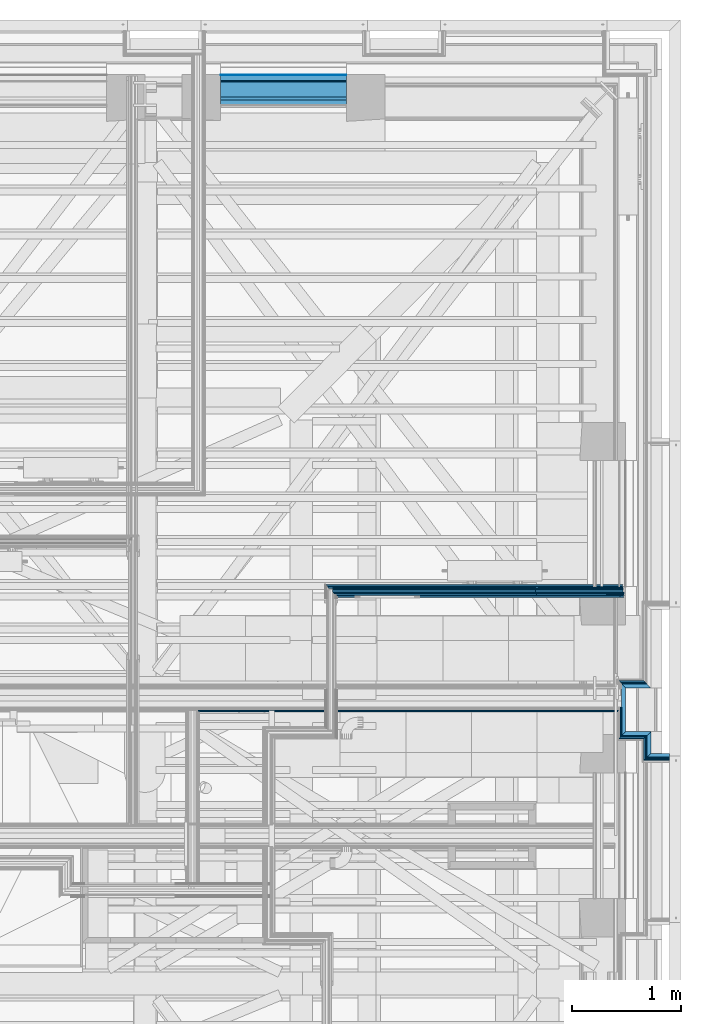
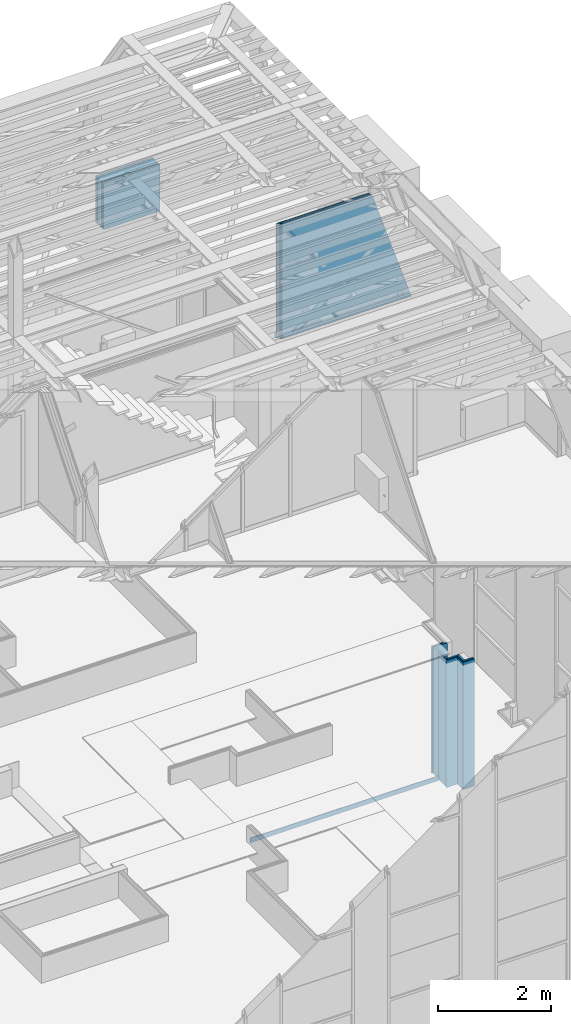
# One storey, part 60 of 183: 28 building element parts, 8 elements without a shape of their own.
"""IFC2X3 building model written with IfcOpenShell, lengths in metres."""

import ifcopenshell
import ifcopenshell.guid

model = None  # the IFC model being written
_history = None  # IfcOwnerHistory: only IFC2X3 demands one
_inside = {}  # id of a spatial element -> (the spatial element, [elements in it])
_under = {}  # id of a project, library or spatial element -> (it, [spatial elements below it])
_declared = {}  # id of a project -> (the project, [libraries it declares])
_typed = {}  # id of a type object -> (the type object, [elements of that type])
_made_of = {}  # id of a material, layer set ... -> (it, [elements and type objects made of it])


def new_model(schema):
    """Start an empty IFC model of exactly this schema.

    Asked for "IFC4X3", IfcOpenShell would pick the latest addendum, in which some entities
    have other attributes; the version numbers below select the first issue.
    IFC2X3 requires an IfcOwnerHistory on every rooted entity: one is made here for all.
    """
    global model, _history
    if schema == "IFC4X3":
        model = ifcopenshell.file(schema_version=(4, 3, 0, 0))
    else:
        model = ifcopenshell.file(schema=schema)
    _inside.clear()
    _under.clear()
    _declared.clear()
    _typed.clear()
    _made_of.clear()
    _history = None
    if model.schema == "IFC2X3":
        org = make("IfcOrganization", Name="unknown")
        user = make(
            "IfcPersonAndOrganization",
            ThePerson=make("IfcPerson", FamilyName="unknown"),
            TheOrganization=org,
        )
        app = make(
            "IfcApplication",
            ApplicationDeveloper=org,
            Version="unknown",
            ApplicationFullName="unknown",
            ApplicationIdentifier="unknown",
        )
        _history = make(
            "IfcOwnerHistory",
            OwningUser=user,
            OwningApplication=app,
            ChangeAction="ADDED",
            CreationDate=0,
        )
    return model


def make(cls, **values):
    """One entity of the class cls with the attributes given. An attribute that is None is left unset."""
    return model.create_entity(
        cls, **{name: value for name, value in values.items() if value is not None}
    )


def entity(cls, *values):
    """Any entity or typed value of the class cls, its attributes in the order of the schema. None: left unset."""
    e = model.create_entity(cls)
    for i, value in enumerate(values):
        if value is not None:
            e[i] = value
    return e


def rooted(cls, **values):
    """An entity with a GlobalId (a new one), such as an element, a storey or a relation."""
    return make(cls, GlobalId=ifcopenshell.guid.new(), OwnerHistory=_history, **values)


def si_unit(unit_type, name, prefix=None):
    """IfcSIUnit, for example si_unit("LENGTHUNIT", "METRE", prefix="MILLI")."""
    return make("IfcSIUnit", UnitType=unit_type, Prefix=prefix, Name=name)


def converted_unit(unit_type, name, factor, base, dimensions=None, offset=None):
    """IfcConversionBasedUnit, such as the inch: factor (a typed value) times the base unit."""
    return make(
        "IfcConversionBasedUnit"
        if offset is None
        else "IfcConversionBasedUnitWithOffset",
        ConversionOffset=offset,
        Dimensions=None
        if dimensions is None
        else entity("IfcDimensionalExponents", *dimensions),
        UnitType=unit_type,
        Name=name,
        ConversionFactor=make(
            "IfcMeasureWithUnit", ValueComponent=factor, UnitComponent=base
        ),
    )


def derived_unit(unit_type, elements):
    """IfcDerivedUnit: a product of units, each with its exponent."""
    return make(
        "IfcDerivedUnit",
        Elements=[
            make("IfcDerivedUnitElement", Unit=unit, Exponent=power)
            for unit, power in elements
        ],
        UnitType=unit_type,
    )


def money_unit(currency):
    """IfcMonetaryUnit."""
    return make("IfcMonetaryUnit", Currency=currency)


def assignment(units):
    """IfcUnitAssignment: the units of a project."""
    return None if units is None else make("IfcUnitAssignment", Units=units)


def point(xyz):
    """IfcCartesianPoint."""
    return None if xyz is None else make("IfcCartesianPoint", Coordinates=xyz)


def direction(xyz):
    """IfcDirection."""
    return None if xyz is None else make("IfcDirection", DirectionRatios=xyz)


def frame(location, z_axis=None, x_axis=None):
    """IfcAxis2Placement3D, a coordinate frame: its origin and axes. An axis left out is left unset."""
    return make(
        "IfcAxis2Placement3D",
        Location=point(location),
        Axis=direction(z_axis),
        RefDirection=direction(x_axis),
    )


def frame_2d(location, x_axis=None):
    """IfcAxis2Placement2D, a coordinate frame in the plane: its origin and x axis."""
    return make(
        "IfcAxis2Placement2D", Location=point(location), RefDirection=direction(x_axis)
    )


def origin_with_axes():
    """The frame at (0, 0, 0) with the z axis (0, 0, 1) and the x axis (1, 0, 0) written out."""
    return frame((0.0, 0.0, 0.0), z_axis=(0.0, 0.0, 1.0), x_axis=(1.0, 0.0, 0.0))


def place(relative_to, where):
    """IfcLocalPlacement: puts the frame where relative to a parent placement (None: the world)."""
    return make(
        "IfcLocalPlacement", PlacementRelTo=relative_to, RelativePlacement=where
    )


def context(
    kind, dimensions, precision=None, world=None, true_north=None, identifier=None
):
    """IfcGeometricRepresentationContext, for example the 3D "Model" context."""
    return make(
        "IfcGeometricRepresentationContext",
        ContextIdentifier=identifier,
        ContextType=kind,
        CoordinateSpaceDimension=dimensions,
        Precision=precision,
        WorldCoordinateSystem=world,
        TrueNorth=true_north,
    )


def subcontext(parent, identifier, kind, view, scale=None):
    """IfcGeometricRepresentationSubContext, for example "Body" below "Model"."""
    return make(
        "IfcGeometricRepresentationSubContext",
        ContextIdentifier=identifier,
        ContextType=kind,
        ParentContext=parent,
        TargetScale=scale,
        TargetView=view,
    )


def project(units=None, contexts=None):
    """IfcProject with its units and contexts."""
    return rooted(
        "IfcProject",
        Name="project",
        RepresentationContexts=contexts,
        UnitsInContext=assignment(units),
    )


def spatial(cls, under=None, at=None, **own):
    """A site, building, storey or space (cls), placed at a placement, below another one or the project."""
    s = rooted(cls, ObjectPlacement=at, **own)
    if under is not None:
        _under.setdefault(under.id(), (under, []))[1].append(s)
    return s


def polyline(points):
    """IfcPolyline through the points."""
    return make("IfcPolyline", Points=[point(p) for p in points])


def profile(cls, at=None, kind="AREA", **sizes):
    """A parametric profile (cls). Its sizes go by their IFC names, for example OverallWidth=200.0."""
    return make(cls, ProfileType=kind, Position=at, **sizes)


def rectangle(**sizes):
    """IfcRectangleProfileDef."""
    return profile("IfcRectangleProfileDef", **sizes)


def outline(outer, holes=None, kind="AREA"):
    """IfcArbitraryClosedProfileDef: a profile drawn as a closed curve; with holes, ...WithVoids."""
    if holes is None:
        return make("IfcArbitraryClosedProfileDef", ProfileType=kind, OuterCurve=outer)
    return make(
        "IfcArbitraryProfileDefWithVoids",
        ProfileType=kind,
        OuterCurve=outer,
        InnerCurves=holes,
    )


def extrude(swept, where, along, depth):
    """IfcExtrudedAreaSolid: the profile swept, set in the frame where, extruded along a direction by depth."""
    return make(
        "IfcExtrudedAreaSolid",
        SweptArea=swept,
        Position=where,
        ExtrudedDirection=direction(along),
        Depth=depth,
    )


def clip(a, b, op="DIFFERENCE"):
    """IfcBooleanClippingResult: the solid a cut by the half space b."""
    return make(
        "IfcBooleanClippingResult", Operator=op, FirstOperand=a, SecondOperand=b
    )


def halfspace(plane, agree):
    """IfcHalfSpaceSolid: all space on one side of the plane z = 0 of the frame plane."""
    return make(
        "IfcHalfSpaceSolid",
        BaseSurface=make("IfcPlane", Position=plane),
        AgreementFlag=agree,
    )


def shape(context_of_items, identifier, shape_type, items):
    """IfcShapeRepresentation: the items that make up one representation, for example the "Body"."""
    return make(
        "IfcShapeRepresentation",
        ContextOfItems=context_of_items,
        RepresentationIdentifier=identifier,
        RepresentationType=shape_type,
        Items=items,
    )


def material(Name=None, Category=None):
    """IfcMaterial."""
    return make("IfcMaterial", Name=Name, Category=Category)


def made_of(thing, what):
    """Note that an element or type object is made of a material, layer set ...; save() writes the relation."""
    if what is not None:
        _made_of.setdefault(what.id(), (what, []))[1].append(thing)
    return thing


def type_object(cls, material=None, **own):
    """A type object (cls), such as IfcWallType, which elements share."""
    return made_of(rooted(cls, **own), material)


def element(
    cls,
    number,
    at=None,
    inside=None,
    cuts=None,
    type_object=None,
    material=None,
    context=None,
    identifier="Body",
    shape_type=None,
    held_by="IfcProductDefinitionShape",
    body=None,
    shapes=None,
    **own,
):
    """One element of the class cls, such as IfcWall. Its Tag is "e" and its number.

    at: its placement. inside: the storey or other place that contains it. cuts: it is an
    opening in that element (IfcRelVoidsElement). A single representation is given by context,
    identifier, shape_type and body (its items); several are given by shapes. held_by: the class
    of the entity that holds the representations. save() writes the other relations.
    """
    e = rooted(cls, Tag="e%d" % number, ObjectPlacement=at, **own)
    if body is not None:
        shapes = [shape(context, identifier, shape_type, body)]
    if shapes is not None:
        e.Representation = make(held_by, Representations=shapes)
    if inside is not None:
        _inside.setdefault(inside.id(), (inside, []))[1].append(e)
    if cuts is not None:
        rooted(
            "IfcRelVoidsElement", RelatingBuildingElement=cuts, RelatedOpeningElement=e
        )
    if type_object is not None:
        _typed.setdefault(type_object.id(), (type_object, []))[1].append(e)
    return made_of(e, material)


def aggregate(whole, parts):
    """IfcRelAggregates: a whole, such as a stair, and the parts it consists of."""
    return rooted("IfcRelAggregates", RelatingObject=whole, RelatedObjects=parts)


def save(model, path):
    """Write the relations noted so far, then the file.

    IfcRelAggregates (storeys below a building ...), IfcRelContainedInSpatialStructure (elements
    in a storey), IfcRelDefinesByType, IfcRelAssociatesMaterial and IfcRelDeclares: one each for
    every whole, place, type object, material and project.
    """
    for whole, parts in _under.values():
        aggregate(whole, parts)
    for where, things in _inside.values():
        rooted(
            "IfcRelContainedInSpatialStructure",
            RelatedElements=things,
            RelatingStructure=where,
        )
    for kind, things in _typed.values():
        rooted("IfcRelDefinesByType", RelatedObjects=things, RelatingType=kind)
    for what, things in _made_of.values():
        rooted("IfcRelAssociatesMaterial", RelatedObjects=things, RelatingMaterial=what)
    for by, libraries in _declared.values():
        rooted("IfcRelDeclares", RelatingContext=by, RelatedDefinitions=libraries)
    model.write(path)


model = new_model("IFC2X3")

# Units and contexts
model_context = context("Model", 3, precision=1e-05, world=origin_with_axes(), true_north=direction((0.0, 1.0)))
body_context = subcontext(model_context, "Body", "Model", "MODEL_VIEW", scale=1.0)
ifc_project = project(units=[si_unit("LENGTHUNIT", "METRE"), si_unit("AREAUNIT", "SQUARE_METRE"), si_unit("VOLUMEUNIT", "CUBIC_METRE"), si_unit("ABSORBEDDOSEUNIT", "GRAY"), si_unit("AMOUNTOFSUBSTANCEUNIT", "MOLE"), si_unit("DOSEEQUIVALENTUNIT", "SIEVERT"), si_unit("ELECTRICCAPACITANCEUNIT", "FARAD"), si_unit("ELECTRICCHARGEUNIT", "COULOMB"), si_unit("ELECTRICCONDUCTANCEUNIT", "SIEMENS"), si_unit("ELECTRICCURRENTUNIT", "AMPERE"), si_unit("ELECTRICRESISTANCEUNIT", "OHM"), si_unit("ELECTRICVOLTAGEUNIT", "VOLT"), si_unit("ENERGYUNIT", "JOULE"), si_unit("FORCEUNIT", "NEWTON"), si_unit("FREQUENCYUNIT", "HERTZ"), si_unit("ILLUMINANCEUNIT", "LUX"), si_unit("INDUCTANCEUNIT", "HENRY"), si_unit("LUMINOUSFLUXUNIT", "LUMEN"), si_unit("LUMINOUSINTENSITYUNIT", "CANDELA"), si_unit("MAGNETICFLUXDENSITYUNIT", "TESLA"), si_unit("MAGNETICFLUXUNIT", "WEBER"), si_unit("MASSUNIT", "GRAM"), converted_unit("PLANEANGLEUNIT", "degree", entity("IfcReal", 0.0174532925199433), si_unit("PLANEANGLEUNIT", "RADIAN"), dimensions=[0, 0, 0, 0, 0, 0, 0]), si_unit("POWERUNIT", "WATT"), si_unit("PRESSUREUNIT", "PASCAL"), si_unit("RADIOACTIVITYUNIT", "BECQUEREL"), si_unit("SOLIDANGLEUNIT", "STERADIAN"), si_unit("THERMODYNAMICTEMPERATUREUNIT", "KELVIN"), si_unit("TIMEUNIT", "SECOND"), derived_unit("ACCELERATIONUNIT", [(si_unit("LENGTHUNIT", "METRE"), 1), (si_unit("TIMEUNIT", "SECOND"), -2)]), derived_unit("ANGULARVELOCITYUNIT", [(converted_unit("PLANEANGLEUNIT", "degree", entity("IfcReal", 0.0174532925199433), si_unit("PLANEANGLEUNIT", "RADIAN"), dimensions=[0, 0, 0, 0, 0, 0, 0]), 1), (si_unit("TIMEUNIT", "SECOND"), -1)]), derived_unit("CURVATUREUNIT", [(converted_unit("PLANEANGLEUNIT", "degree", entity("IfcReal", 0.0174532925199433), si_unit("PLANEANGLEUNIT", "RADIAN"), dimensions=[0, 0, 0, 0, 0, 0, 0]), 1), (si_unit("LENGTHUNIT", "METRE"), -1)]), derived_unit("DYNAMICVISCOSITYUNIT", [(si_unit("PRESSUREUNIT", "PASCAL"), 1), (si_unit("TIMEUNIT", "SECOND"), 1)]), derived_unit("HEATFLUXDENSITYUNIT", [(si_unit("POWERUNIT", "WATT"), 1), (si_unit("LENGTHUNIT", "METRE"), -2)]), derived_unit("HEATINGVALUEUNIT", [(si_unit("ENERGYUNIT", "JOULE"), 1), (si_unit("MASSUNIT", "GRAM"), -1)]), derived_unit("INTEGERCOUNTRATEUNIT", [(si_unit("TIMEUNIT", "SECOND"), -1)]), derived_unit("IONCONCENTRATIONUNIT", [(si_unit("MASSUNIT", "GRAM"), 1), (si_unit("VOLUMEUNIT", "CUBIC_METRE"), -1)]), derived_unit("ISOTHERMALMOISTURECAPACITYUNIT", [(si_unit("VOLUMEUNIT", "CUBIC_METRE"), 1), (si_unit("MASSUNIT", "GRAM"), -1)]), derived_unit("KINEMATICVISCOSITYUNIT", [(si_unit("AREAUNIT", "SQUARE_METRE"), 1), (si_unit("TIMEUNIT", "SECOND"), -1)]), derived_unit("LINEARFORCEUNIT", [(si_unit("FORCEUNIT", "NEWTON"), 1), (si_unit("LENGTHUNIT", "METRE"), -1)]), derived_unit("LINEARMOMENTUNIT", [(si_unit("FORCEUNIT", "NEWTON"), 1), (si_unit("LENGTHUNIT", "METRE"), -1)]), derived_unit("LINEARSTIFFNESSUNIT", [(si_unit("FORCEUNIT", "NEWTON"), 1), (si_unit("LENGTHUNIT", "METRE"), -1)]), derived_unit("LINEARVELOCITYUNIT", [(si_unit("LENGTHUNIT", "METRE"), 1), (si_unit("TIMEUNIT", "SECOND"), -1)]), derived_unit("LUMINOUSINTENSITYDISTRIBUTIONUNIT", [(si_unit("LUMINOUSINTENSITYUNIT", "CANDELA"), 1), (si_unit("LUMINOUSFLUXUNIT", "LUMEN"), -1)]), derived_unit("MASSDENSITYUNIT", [(si_unit("MASSUNIT", "GRAM"), 1), (si_unit("VOLUMEUNIT", "CUBIC_METRE"), -1)]), derived_unit("MASSFLOWRATEUNIT", [(si_unit("MASSUNIT", "GRAM"), 1), (si_unit("TIMEUNIT", "SECOND"), -1)]), derived_unit("MASSPERLENGTHUNIT", [(si_unit("MASSUNIT", "GRAM"), 1), (si_unit("LENGTHUNIT", "METRE"), -1)]), derived_unit("MODULUSOFELASTICITYUNIT", [(si_unit("FORCEUNIT", "NEWTON"), 1), (si_unit("AREAUNIT", "SQUARE_METRE"), -1)]), derived_unit("MODULUSOFLINEARSUBGRADEREACTIONUNIT", [(si_unit("FORCEUNIT", "NEWTON"), 1), (si_unit("LENGTHUNIT", "METRE"), -2)]), derived_unit("MODULUSOFROTATIONALSUBGRADEREACTIONUNIT", [(si_unit("FORCEUNIT", "NEWTON"), 1), (si_unit("LENGTHUNIT", "METRE"), 1)]), derived_unit("MODULUSOFSUBGRADEREACTIONUNIT", [(si_unit("FORCEUNIT", "NEWTON"), 1), (si_unit("VOLUMEUNIT", "CUBIC_METRE"), -1)]), derived_unit("MOISTUREDIFFUSIVITYUNIT", [(si_unit("VOLUMEUNIT", "CUBIC_METRE"), 1), (si_unit("TIMEUNIT", "SECOND"), -1)]), derived_unit("MOLECULARWEIGHTUNIT", [(si_unit("MASSUNIT", "GRAM"), 1), (si_unit("AMOUNTOFSUBSTANCEUNIT", "MOLE"), -1)]), derived_unit("PLANARFORCEUNIT", [(si_unit("FORCEUNIT", "NEWTON"), 1), (si_unit("LENGTHUNIT", "METRE"), -2)]), derived_unit("ROTATIONALFREQUENCYUNIT", [(si_unit("TIMEUNIT", "SECOND"), -1)]), derived_unit("ROTATIONALMASSUNIT", [(si_unit("MASSUNIT", "GRAM"), 1), (si_unit("LENGTHUNIT", "METRE"), 2)]), derived_unit("ROTATIONALSTIFFNESSUNIT", [(si_unit("FORCEUNIT", "NEWTON"), 1), (si_unit("LENGTHUNIT", "METRE"), 1), (converted_unit("PLANEANGLEUNIT", "degree", entity("IfcReal", 0.0174532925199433), si_unit("PLANEANGLEUNIT", "RADIAN"), dimensions=[0, 0, 0, 0, 0, 0, 0]), -1)]), derived_unit("SECTIONAREAINTEGRALUNIT", [(si_unit("LENGTHUNIT", "METRE"), 5)]), derived_unit("SECTIONMODULUSUNIT", [(si_unit("LENGTHUNIT", "METRE"), 3)]), derived_unit("SHEARMODULUSUNIT", [(si_unit("FORCEUNIT", "NEWTON"), 1), (si_unit("AREAUNIT", "SQUARE_METRE"), -1)]), derived_unit("SOUNDPOWERUNIT", [(si_unit("ENERGYUNIT", "JOULE"), 1), (si_unit("TIMEUNIT", "SECOND"), -1)]), derived_unit("SPECIFICHEATCAPACITYUNIT", [(si_unit("FORCEUNIT", "NEWTON"), 1), (si_unit("MASSUNIT", "GRAM"), -1), (si_unit("THERMODYNAMICTEMPERATUREUNIT", "KELVIN"), -1)]), derived_unit("TEMPERATUREGRADIENTUNIT", [(si_unit("THERMODYNAMICTEMPERATUREUNIT", "KELVIN"), 1), (si_unit("LENGTHUNIT", "METRE"), -1)]), derived_unit("THERMALADMITTANCEUNIT", [(si_unit("POWERUNIT", "WATT"), 1), (si_unit("AREAUNIT", "SQUARE_METRE"), -1), (si_unit("THERMODYNAMICTEMPERATUREUNIT", "KELVIN"), -1)]), derived_unit("THERMALCONDUCTANCEUNIT", [(si_unit("POWERUNIT", "WATT"), 1), (si_unit("LENGTHUNIT", "METRE"), -1), (si_unit("THERMODYNAMICTEMPERATUREUNIT", "KELVIN"), -1)]), derived_unit("THERMALEXPANSIONCOEFFICIENTUNIT", [(si_unit("THERMODYNAMICTEMPERATUREUNIT", "KELVIN"), -1)]), derived_unit("THERMALRESISTANCEUNIT", [(si_unit("AREAUNIT", "SQUARE_METRE"), 1), (si_unit("POWERUNIT", "WATT"), -1)]), derived_unit("THERMALTRANSMITTANCEUNIT", [(si_unit("POWERUNIT", "WATT"), 1), (si_unit("AREAUNIT", "SQUARE_METRE"), -1), (si_unit("THERMODYNAMICTEMPERATUREUNIT", "KELVIN"), -1)]), derived_unit("TORQUEUNIT", [(si_unit("FORCEUNIT", "NEWTON"), 1), (si_unit("LENGTHUNIT", "METRE"), 1)]), derived_unit("VAPORPERMEABILITYUNIT", [(si_unit("MASSUNIT", "GRAM"), 1), (si_unit("TIMEUNIT", "SECOND"), -1)]), derived_unit("VOLUMETRICFLOWRATEUNIT", [(si_unit("VOLUMEUNIT", "CUBIC_METRE"), 1), (si_unit("TIMEUNIT", "SECOND"), -1)]), derived_unit("WARPINGCONSTANTUNIT", [(si_unit("LENGTHUNIT", "METRE"), 6)]), derived_unit("WARPINGMOMENTUNIT", [(si_unit("FORCEUNIT", "NEWTON"), 1), (si_unit("LENGTHUNIT", "METRE"), 2)]), money_unit("GBP")], contexts=[model_context])

# Site, building, storey
site_placement = place(None, origin_with_axes())
site = spatial("IfcSite", under=ifc_project, at=site_placement, Name="Site", CompositionType="ELEMENT")
building_placement = place(site_placement, origin_with_axes())
building = spatial("IfcBuilding", under=site, at=building_placement, Name="Building01", CompositionType="ELEMENT")
storey_placement = place(building_placement, frame((0.0, 0.0, 5.15), z_axis=(0.0, 0.0, 1.0), x_axis=(1.0, 0.0, 0.0)))
storey = spatial("IfcBuildingStorey", under=building, at=storey_placement, Name="1F", CompositionType="ELEMENT", Elevation=5.15)

# Wall, building element part
wall_type_1 = type_object("IfcWallType", Name="SHE_A-Walls_Type01c_Partywall_225mm_twin_tall", PredefinedType="NOTDEFINED")
wall_1_placement = place(storey_placement, frame((26.444, 8.732, 0.0), z_axis=(0.0, 0.0, 1.0), x_axis=(-1.0, 0.0, 0.0)))
wall_1 = element("IfcWall", 1, at=wall_1_placement, inside=storey, type_object=wall_type_1, Name="1C", ObjectType="SHE_A-Walls_Type01c_Partywall_225mm_twin_tall")
ifc_material_1 = material(Name="A_BSUK_Walls_Timber")
building_element_part_1_placement = place(wall_1_placement, origin_with_axes())
building_element_part_1 = element("IfcBuildingElementPart", 2, at=building_element_part_1_placement, material=ifc_material_1, Name="11", context=body_context, shape_type="SweptSolid", body=[
    extrude(outline(polyline([(3.872339, 0.152), (0.042, 0.152), (0.027, 0.137), (3.872339, 0.137), (3.872339, 0.152)])), frame((0.0, 0.0, 0.015), z_axis=(0.0, 0.0, 1.0), x_axis=(1.0, 0.0, 0.0)), (0.0, 0.0, 1.0), 0.1),
])
aggregate(wall_1, [building_element_part_1])

# Wall, building element parts
wall_type_2 = type_object("IfcWallType", Name="SHE_A-Walls_Type06f_ExternalWallInsulation_48+15mm", PredefinedType="NOTDEFINED")
wall_2_placement = place(storey_placement, frame((26.88, 8.182326, 0.0), z_axis=(0.0, 0.0, 1.0), x_axis=(-1.0, 0.0, 0.0)))
wall_2 = element("IfcWall", 3, at=wall_2_placement, inside=storey, type_object=wall_type_2, Name="6F", ObjectType="SHE_A-Walls_Type06f_ExternalWallInsulation_48+15mm")
ifc_material_2 = material(Name="A_BSUK_Insulation")
placement_1 = place(wall_2_placement, origin_with_axes())
building_element_part_2 = element("IfcBuildingElementPart", 4, at=placement_1, material=ifc_material_2, Name="1", context=body_context, shape_type="SweptSolid", body=[
    extrude(outline(polyline([(0.206, 0.018), (0.0, 0.018), (0.0, -0.018), (0.17, -0.018), (0.206, 0.018)])), origin_with_axes(), (0.0, 0.0, 1.0), 2.74),
])
ifc_material_3 = material(Name="A_BSUK_WallInternal_Finishes_Plasterboard")
building_element_part_3 = element("IfcBuildingElementPart", 5, at=placement_1, material=ifc_material_3, Name="2", context=body_context, shape_type="SweptSolid", body=[
    extrude(outline(polyline([(0.218, 0.03), (0.0, 0.03), (0.0, 0.018), (0.206, 0.018), (0.218, 0.03)])), origin_with_axes(), (0.0, 0.0, 1.0), 2.74),
])
building_element_part_4 = element("IfcBuildingElementPart", 6, at=placement_1, material=ifc_material_3, Name="3", context=body_context, shape_type="SweptSolid", body=[
    extrude(outline(polyline([(0.233, 0.045), (0.0, 0.045), (0.0, 0.03), (0.218, 0.03), (0.233, 0.045)])), origin_with_axes(), (0.0, 0.0, 1.0), 2.74),
])
aggregate(wall_2, [building_element_part_2, building_element_part_3, building_element_part_4])

wall_3_placement = place(storey_placement, frame((26.692, 8.182326, 0.0), z_axis=(0.0, 0.0, 1.0), x_axis=(0.0, 1.0, 0.0)))
wall_3 = element("IfcWall", 7, at=wall_3_placement, inside=storey, type_object=wall_type_2, Name="6F", ObjectType="SHE_A-Walls_Type06f_ExternalWallInsulation_48+15mm")
placement_2 = place(wall_3_placement, origin_with_axes())
building_element_part_5 = element("IfcBuildingElementPart", 8, at=placement_2, material=ifc_material_2, Name="1", context=body_context, shape_type="SweptSolid", body=[
    extrude(outline(polyline([(0.181674, 0.018), (-0.018, 0.018), (0.018, -0.018), (0.217674, -0.018), (0.181674, 0.018)])), origin_with_axes(), (0.0, 0.0, 1.0), 2.74),
])
building_element_part_6 = element("IfcBuildingElementPart", 9, at=placement_2, material=ifc_material_3, Name="2", context=body_context, shape_type="SweptSolid", body=[
    extrude(outline(polyline([(0.169674, 0.03), (-0.03, 0.03), (-0.018, 0.018), (0.181674, 0.018), (0.169674, 0.03)])), origin_with_axes(), (0.0, 0.0, 1.0), 2.74),
])
building_element_part_7 = element("IfcBuildingElementPart", 10, at=placement_2, material=ifc_material_3, Name="3", context=body_context, shape_type="SweptSolid", body=[
    extrude(outline(polyline([(0.154674, 0.045), (-0.045, 0.045), (-0.03, 0.03), (0.169674, 0.03), (0.154674, 0.045)])), origin_with_axes(), (0.0, 0.0, 1.0), 2.74),
])
aggregate(wall_3, [building_element_part_5, building_element_part_6, building_element_part_7])

wall_4_placement = place(storey_placement, frame((26.692, 8.382, 0.0), z_axis=(0.0, 0.0, 1.0), x_axis=(-1.0, 0.0, 0.0)))
wall_4 = element("IfcWall", 11, at=wall_4_placement, inside=storey, type_object=wall_type_2, Name="6F", ObjectType="SHE_A-Walls_Type06f_ExternalWallInsulation_48+15mm")
placement_3 = place(wall_4_placement, origin_with_axes())
building_element_part_8 = element("IfcBuildingElementPart", 12, at=placement_3, material=ifc_material_2, Name="1", context=body_context, shape_type="SweptSolid", body=[
    extrude(outline(polyline([(0.248, 0.018), (0.018, 0.018), (-0.018, -0.018), (0.212, -0.018), (0.248, 0.018)])), origin_with_axes(), (0.0, 0.0, 1.0), 2.74),
])
building_element_part_9 = element("IfcBuildingElementPart", 13, at=placement_3, material=ifc_material_3, Name="2", context=body_context, shape_type="SweptSolid", body=[
    extrude(outline(polyline([(0.26, 0.03), (0.03, 0.03), (0.018, 0.018), (0.248, 0.018), (0.26, 0.03)])), origin_with_axes(), (0.0, 0.0, 1.0), 2.74),
])
building_element_part_10 = element("IfcBuildingElementPart", 14, at=placement_3, material=ifc_material_3, Name="3", context=body_context, shape_type="SweptSolid", body=[
    extrude(outline(polyline([(0.275, 0.045), (0.045, 0.045), (0.03, 0.03), (0.26, 0.03), (0.275, 0.045)])), origin_with_axes(), (0.0, 0.0, 1.0), 2.74),
])
aggregate(wall_4, [building_element_part_8, building_element_part_9, building_element_part_10])

wall_5_placement = place(storey_placement, frame((26.462, 8.818, 0.0), z_axis=(0.0, 0.0, 1.0), x_axis=(1.0, 0.0, 0.0)))
wall_5 = element("IfcWall", 15, at=wall_5_placement, inside=storey, type_object=wall_type_2, Name="6F", ObjectType="SHE_A-Walls_Type06f_ExternalWallInsulation_48+15mm")
placement_4 = place(wall_5_placement, origin_with_axes())
building_element_part_11 = element("IfcBuildingElementPart", 16, at=placement_4, material=ifc_material_2, Name="1", context=body_context, shape_type="SweptSolid", body=[
    extrude(outline(polyline([(0.212, 0.018), (-0.018, 0.018), (0.018, -0.018), (0.248, -0.018), (0.212, 0.018)])), origin_with_axes(), (0.0, 0.0, 1.0), 2.74),
])
building_element_part_12 = element("IfcBuildingElementPart", 17, at=placement_4, material=ifc_material_3, Name="2", context=body_context, shape_type="SweptSolid", body=[
    extrude(outline(polyline([(0.2, 0.03), (-0.03, 0.03), (-0.018, 0.018), (0.212, 0.018), (0.2, 0.03)])), origin_with_axes(), (0.0, 0.0, 1.0), 2.74),
])
building_element_part_13 = element("IfcBuildingElementPart", 18, at=placement_4, material=ifc_material_3, Name="3", context=body_context, shape_type="SweptSolid", body=[
    extrude(outline(polyline([(0.185, 0.045), (-0.045, 0.045), (-0.03, 0.03), (0.2, 0.03), (0.185, 0.045)])), origin_with_axes(), (0.0, 0.0, 1.0), 2.74),
])
aggregate(wall_5, [building_element_part_11, building_element_part_12, building_element_part_13])

wall_6_placement = place(storey_placement, frame((26.462, 8.382, 0.0), z_axis=(0.0, 0.0, 1.0), x_axis=(0.0, 1.0, 0.0)))
wall_6 = element("IfcWall", 19, at=wall_6_placement, inside=storey, type_object=wall_type_2, Name="6F", ObjectType="SHE_A-Walls_Type06f_ExternalWallInsulation_48+15mm")
placement_5 = place(wall_6_placement, origin_with_axes())
building_element_part_14 = element("IfcBuildingElementPart", 20, at=placement_5, material=ifc_material_2, Name="1", context=body_context, shape_type="SweptSolid", body=[
    extrude(outline(polyline([(0.454, 0.018), (-0.018, 0.018), (0.018, -0.018), (0.418, -0.018), (0.454, 0.018)])), origin_with_axes(), (0.0, 0.0, 1.0), 2.74),
])
building_element_part_15 = element("IfcBuildingElementPart", 21, at=placement_5, material=ifc_material_3, Name="2", context=body_context, shape_type="SweptSolid", body=[
    extrude(outline(polyline([(0.243, 0.03), (-0.03, 0.03), (-0.018, 0.018), (0.243, 0.018), (0.243, 0.03)])), origin_with_axes(), (0.0, 0.0, 1.0), 2.74),
])
aggregate(wall_6, [building_element_part_14, building_element_part_15])

wall_type_3 = type_object("IfcWallType", Name="SHE_A-Walls_Type05b_Partition_80mm", PredefinedType="NOTDEFINED")
wall_7_placement = place(storey_placement, frame((23.803, 9.672024, 9.78), z_axis=(0.0, 0.0, 1.0), x_axis=(1.0, 0.0, 0.0)))
wall_7 = element("IfcWall", 22, at=wall_7_placement, inside=storey, type_object=wall_type_3, Name="5B", ObjectType="SHE_A-Walls_Type05b_Partition_80mm")
placement_6 = place(wall_7_placement, origin_with_axes())
building_element_part_16 = element("IfcBuildingElementPart", 23, at=placement_6, material=ifc_material_1, Name="1", context=body_context, shape_type="Clipping", body=[
    clip(extrude(outline(polyline([(2.658784, -0.027), (0.027, -0.027), (0.042, -0.042), (2.658784, -0.042), (2.658784, -0.027)])), frame((0.0, 0.0, 0.015), z_axis=(0.0, 0.0, 1.0), x_axis=(1.0, 0.0, 0.0)), (0.0, 0.0, 1.0), 0.1), halfspace(frame((2.409301, 0.0, 0.782829), z_axis=(-0.95105652, 0.0, -0.30901699), x_axis=(0.0, -1.0, 0.0)), True)),
])
building_element_part_17 = element("IfcBuildingElementPart", 24, at=placement_6, material=ifc_material_3, Name="2", context=body_context, shape_type="Clipping", body=[
    clip(extrude(outline(polyline([(2.663658, -0.012), (0.012, -0.012), (0.027, -0.027), (2.663658, -0.027), (2.663658, -0.012)])), origin_with_axes(), (0.0, 0.0, 1.0), 2.468), halfspace(frame((2.409301, 0.0, 0.782829), z_axis=(-0.95105652, 0.0, -0.30901699), x_axis=(0.0, -1.0, 0.0)), True)),
])
ifc_material_4 = material(Name="Air Cavity")
building_element_part_18 = element("IfcBuildingElementPart", 25, at=placement_6, material=ifc_material_4, Name="3", context=body_context, shape_type="Clipping", body=[
    clip(extrude(outline(polyline([(2.663658, 0.0), (0.0, 0.0), (0.012, -0.012), (2.663658, -0.012), (2.663658, 0.0)])), origin_with_axes(), (0.0, 0.0, 1.0), 2.468), halfspace(frame((2.409301, 0.0, 0.782829), z_axis=(-0.95105652, 0.0, -0.30901699), x_axis=(0.0, -1.0, 0.0)), True)),
])
building_element_part_19 = element("IfcBuildingElementPart", 26, at=placement_6, material=ifc_material_2, Name="4", context=body_context, shape_type="Clipping", body=[
    clip(extrude(rectangle(XDim=2.653143, YDim=0.025, at=frame_2d((1.326572, 0.0125), x_axis=(-1.0, 0.0))), origin_with_axes(), (0.0, 0.0, 1.0), 2.468), halfspace(frame((2.399791, 0.0, 0.779739), z_axis=(-0.95105652, 0.0, -0.30901699), x_axis=(0.0, -1.0, 0.0)), True)),
])
building_element_part_20 = element("IfcBuildingElementPart", 27, at=placement_6, material=ifc_material_4, Name="5", context=body_context, shape_type="Clipping", body=[
    clip(extrude(rectangle(XDim=2.653143, YDim=0.013, at=frame_2d((1.326572, 0.0315), x_axis=(-1.0, 0.0))), origin_with_axes(), (0.0, 0.0, 1.0), 2.468), halfspace(frame((2.399791, 0.0, 0.779739), z_axis=(-0.95105652, 0.0, -0.30901699), x_axis=(0.0, -1.0, 0.0)), True)),
])
building_element_part_21 = element("IfcBuildingElementPart", 28, at=placement_6, material=ifc_material_3, Name="6", context=body_context, shape_type="Clipping", body=[
    clip(extrude(outline(polyline([(2.653143, 0.053), (-0.053, 0.053), (-0.038, 0.038), (2.653143, 0.038), (2.653143, 0.053)])), origin_with_axes(), (0.0, 0.0, 1.0), 2.468), halfspace(frame((2.399791, 0.0, 0.779739), z_axis=(-0.95105652, 0.0, -0.30901699), x_axis=(0.0, -1.0, 0.0)), True)),
])
building_element_part_22 = element("IfcBuildingElementPart", 29, at=placement_6, material=ifc_material_1, Name="7", context=body_context, shape_type="Clipping", body=[
    clip(extrude(outline(polyline([(2.64827, 0.068), (-0.068, 0.068), (-0.053, 0.053), (2.64827, 0.053), (2.64827, 0.068)])), frame((0.0, 0.0, 0.015), z_axis=(0.0, 0.0, 1.0), x_axis=(1.0, 0.0, 0.0)), (0.0, 0.0, 1.0), 0.1), halfspace(frame((2.399791, 0.0, 0.779739), z_axis=(-0.95105652, 0.0, -0.30901699), x_axis=(0.0, -1.0, 0.0)), True)),
])
aggregate(wall_7, [building_element_part_16, building_element_part_17, building_element_part_18, building_element_part_19, building_element_part_20, building_element_part_21, building_element_part_22])

wall_type_4 = type_object("IfcWallType", Name="SHE_A-Walls_Type06e_ExternalWallPenthouse_280mm", PredefinedType="NOTDEFINED")
wall_8_placement = place(storey_placement, frame((22.780024, 14.335061, 9.78), z_axis=(0.0, 0.0, 1.0), x_axis=(1.0, 0.0, 0.0)))
wall_8 = element("IfcWall", 30, at=wall_8_placement, inside=storey, type_object=wall_type_4, Name="6E", ObjectType="SHE_A-Walls_Type06e_ExternalWallPenthouse_280mm")
placement_7 = place(wall_8_placement, origin_with_axes())
building_element_part_23 = element("IfcBuildingElementPart", 31, at=placement_7, material=ifc_material_2, Name="3", context=body_context, shape_type="SweptSolid", body=[
    extrude(rectangle(XDim=1.149951, YDim=0.04, at=frame_2d((0.574976, -0.185), x_axis=(-1.0, 0.0))), origin_with_axes(), (0.0, 0.0, 1.0), 1.0),
])
building_element_part_24 = element("IfcBuildingElementPart", 32, at=placement_7, material=ifc_material_4, Name="4", context=body_context, shape_type="SweptSolid", body=[
    extrude(rectangle(XDim=1.149951, YDim=0.025, at=frame_2d((0.574976, -0.1525), x_axis=(-1.0, 0.0))), origin_with_axes(), (0.0, 0.0, 1.0), 1.0),
])
building_element_part_25 = element("IfcBuildingElementPart", 33, at=placement_7, material=ifc_material_2, Name="5", context=body_context, shape_type="SweptSolid", body=[
    extrude(rectangle(XDim=1.149951, YDim=0.14, at=frame_2d((0.574976, -0.07), x_axis=(-1.0, 0.0))), origin_with_axes(), (0.0, 0.0, 1.0), 1.0),
])
building_element_part_26 = element("IfcBuildingElementPart", 34, at=placement_7, material=ifc_material_1, Name="6", context=body_context, shape_type="SweptSolid", body=[
    extrude(rectangle(XDim=1.149951, YDim=0.01, at=frame_2d((0.574976, 0.005), x_axis=(-1.0, 0.0))), origin_with_axes(), (0.0, 0.0, 1.0), 1.0),
])
building_element_part_27 = element("IfcBuildingElementPart", 35, at=placement_7, material=ifc_material_4, Name="7", context=body_context, shape_type="SweptSolid", body=[
    extrude(rectangle(XDim=1.149951, YDim=0.05, at=frame_2d((0.574976, 0.035), x_axis=(-1.0, 0.0))), origin_with_axes(), (0.0, 0.0, 1.0), 1.0),
])
ifc_material_5 = material(Name="A_BSUK_WallInternal_Finishes_Metal")
building_element_part_28 = element("IfcBuildingElementPart", 36, at=placement_7, material=ifc_material_5, Name="8", context=body_context, shape_type="SweptSolid", body=[
    extrude(rectangle(XDim=1.149951, YDim=0.005, at=frame_2d((0.574976, 0.0625), x_axis=(-1.0, 0.0))), origin_with_axes(), (0.0, 0.0, 1.0), 1.0),
])
aggregate(wall_8, [building_element_part_23, building_element_part_24, building_element_part_25, building_element_part_26, building_element_part_27, building_element_part_28])

save(model, "model.ifc")
